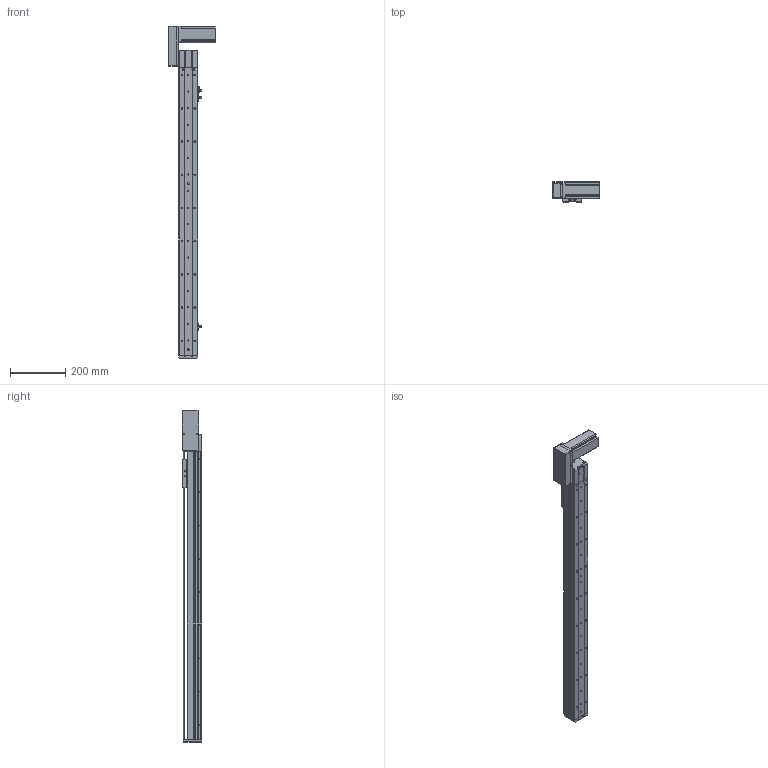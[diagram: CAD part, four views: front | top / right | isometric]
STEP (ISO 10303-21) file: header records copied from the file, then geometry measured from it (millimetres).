
FILE_DESCRIPTION (( 'STEP AP214' ), '1' );
FILE_NAME ('KSD68BS-S850-MRB-CM.STEP', '2019-11-06T07:36:37', ( '微软用户' ), ( '微软中国' ), 'SwSTEP 2.0', 'SolidWorks 2014', '' );
FILE_SCHEMA (( 'AUTOMOTIVE_DESIGN' ));
Length unit declared in the file: millimetre
Products named in the file (11): KSD68BS半封闭同步带传动导轨座; U倰嫖萇EEㄜSX672; 台达ECMA－C20604AS伺服电机（400W); KSD68BS 850俴最菁啣圉猾敕; KSD68BS-S850-MRB-CM; 悵誘欶奻狟殏; 68宽马达安装板连板上折同步带; 68宽单导轨半封闭同步带主动轮座右; 68单导轨同步带半封闭端板; KSD68BS 850俴最裔啣圉猾敕; 覜茼え68遵圉猾敕
Assembly tree (12 placements, depth 2):
  KSD68BS-S850-MRB-CM
    KSD68BS 850俴最菁啣圉猾敕
    台达ECMA－C20604AS伺服电机（400W)
    U倰嫖萇EEㄜSX672  x3
    KSD68BS半封闭同步带传动导轨座
    覜茼え68遵圉猾敕
    KSD68BS 850俴最裔啣圉猾敕
    68单导轨同步带半封闭端板
    68宽单导轨半封闭同步带主动轮座右
    68宽马达安装板连板上折同步带
    悵誘欶奻狟殏
Bounding box: 167.2 x 70.5 x 1199.5 mm (x, y, z)
Volume: 2181549.2 mm3; surface area: 755969.6 mm2
Topology: 13 solids, 13 shells, 1372 faces, 3938 edges, 2560 vertices
Faces by surface type: cylinder 684, plane 605, cone 83
Entity records: 50361 total; most frequent: CARTESIAN_POINT 9574, ORIENTED_EDGE 6628, DIRECTION 6558, EDGE_CURVE 3314, AXIS2_PLACEMENT_3D 2352, VERTEX_POINT 2184, VECTOR 1854, LINE 1854
